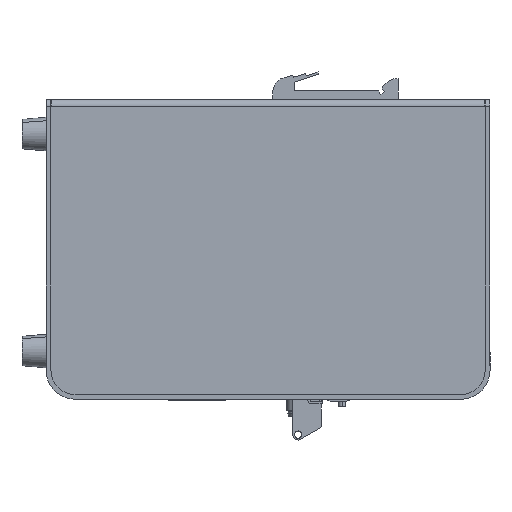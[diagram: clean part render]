
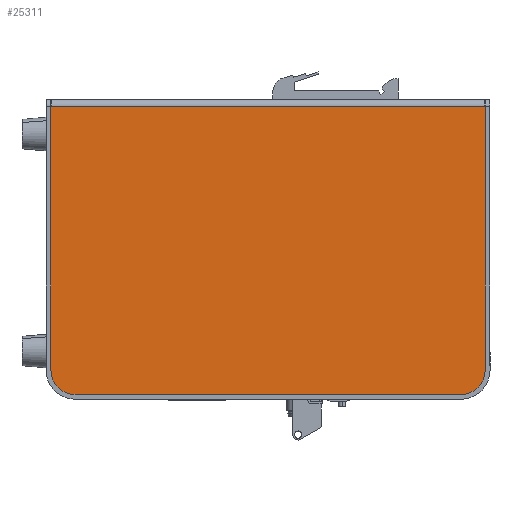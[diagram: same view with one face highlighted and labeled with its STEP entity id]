
A CAD part, left-side view. The second image highlights one B-rep face of the part: STEP entity #25311.
In plain terms, the highlighted planar face has unit normal (-1, 0, 0).
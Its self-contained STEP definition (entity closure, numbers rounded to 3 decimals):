
#4390 = CARTESIAN_POINT ( 'NONE',  ( -55.5, 103.6, 51.8 ) ) ;
#4908 = CARTESIAN_POINT ( 'NONE',  ( -55.5, 93.6, -67.7 ) ) ;
#4910 = DIRECTION ( 'NONE',  ( 0., 1., 0. ) ) ;
#4911 = VECTOR ( 'NONE', #4910, 1000. ) ;
#4912 = CARTESIAN_POINT ( 'NONE',  ( -55.5, 93.6, -67.7 ) ) ;
#4913 = LINE ( 'NONE', #4912, #4911 ) ;
#4940 = CARTESIAN_POINT ( 'NONE',  ( -55.5, 103.6, -57.7 ) ) ;
#5068 = DIRECTION ( 'NONE',  ( 0., 0., 1. ) ) ;
#5069 = VECTOR ( 'NONE', #5068, 1000. ) ;
#5070 = CARTESIAN_POINT ( 'NONE',  ( -55.5, 103.6, -57.7 ) ) ;
#5071 = LINE ( 'NONE', #5070, #5069 ) ;
#5095 = CARTESIAN_POINT ( 'NONE',  ( -55.5, -66.6, -67.7 ) ) ;
#6043 = DIRECTION ( 'NONE',  ( 0., 0., 1. ) ) ;
#6044 = DIRECTION ( 'NONE',  ( 1., 0., 0. ) ) ;
#6046 = CARTESIAN_POINT ( 'NONE',  ( -55.5, -66.6, -57.7 ) ) ;
#6047 = AXIS2_PLACEMENT_3D ( 'NONE', #6046, #6044, #6043 ) ;
#6048 = CIRCLE ( 'NONE', #6047, 10. ) ;
#6249 = CARTESIAN_POINT ( 'NONE',  ( -55.5, -76.6, -57.7 ) ) ;
#6250 = DIRECTION ( 'NONE',  ( 0., 0., -1. ) ) ;
#6251 = VECTOR ( 'NONE', #6250, 1000. ) ;
#6252 = CARTESIAN_POINT ( 'NONE',  ( -55.5, -76.6, -57.7 ) ) ;
#6253 = LINE ( 'NONE', #6252, #6251 ) ;
#6301 = CARTESIAN_POINT ( 'NONE',  ( -55.5, -76.6, 51.8 ) ) ;
#6595 = DIRECTION ( 'NONE',  ( 0., 0., 1. ) ) ;
#6596 = DIRECTION ( 'NONE',  ( 1., 0., 0. ) ) ;
#6597 = CARTESIAN_POINT ( 'NONE',  ( -55.5, 93.6, -57.7 ) ) ;
#6598 = AXIS2_PLACEMENT_3D ( 'NONE', #6597, #6596, #6595 ) ;
#6603 = CIRCLE ( 'NONE', #6598, 10. ) ;
#23271 = VERTEX_POINT ( 'NONE', #4390 ) ;
#23497 = VERTEX_POINT ( 'NONE', #4940 ) ;
#23517 = EDGE_CURVE ( 'NONE', #23539, #23523, #4913, .T. ) ;
#23523 = VERTEX_POINT ( 'NONE', #4908 ) ;
#23539 = VERTEX_POINT ( 'NONE', #5095 ) ;
#23593 = EDGE_CURVE ( 'NONE', #23497, #23271, #5071, .T. ) ;
#24268 = EDGE_CURVE ( 'NONE', #24377, #23539, #6048, .T. ) ;
#24374 = VERTEX_POINT ( 'NONE', #6301 ) ;
#24376 = EDGE_CURVE ( 'NONE', #24374, #24377, #6253, .T. ) ;
#24377 = VERTEX_POINT ( 'NONE', #6249 ) ;
#24440 = EDGE_CURVE ( 'NONE', #23523, #23497, #6603, .T. ) ;
#25105 = VERTEX_POINT ( 'NONE', #25207 ) ;
#25207 = CARTESIAN_POINT ( 'NONE',  ( -55.5, 103.5, 51.8 ) ) ;
#25237 = VERTEX_POINT ( 'NONE', #25568 ) ;
#25309 = EDGE_CURVE ( 'NONE', #25105, #25237, #25794, .T. ) ;
#25311 = ADVANCED_FACE ( 'NONE', ( #25787 ), #25886, .T. ) ;
#25568 = CARTESIAN_POINT ( 'NONE',  ( -55.5, -76.5, 51.8 ) ) ;
#25787 = FACE_OUTER_BOUND ( 'NONE', #25971, .T. ) ;
#25788 = DIRECTION ( 'NONE',  ( 0., -1., 0. ) ) ;
#25790 = VECTOR ( 'NONE', #25788, 1000. ) ;
#25792 = CARTESIAN_POINT ( 'NONE',  ( -55.5, -76.5, 51.8 ) ) ;
#25794 = LINE ( 'NONE', #25792, #25790 ) ;
#25878 = DIRECTION ( 'NONE',  ( 0., 0., -1. ) ) ;
#25880 = DIRECTION ( 'NONE',  ( -1., 0., 0. ) ) ;
#25883 = CARTESIAN_POINT ( 'NONE',  ( -55.5, -76.5, -67.2 ) ) ;
#25884 = AXIS2_PLACEMENT_3D ( 'NONE', #25883, #25880, #25878 ) ;
#25886 = PLANE ( 'NONE',  #25884 ) ;
#25909 = ORIENTED_EDGE ( 'NONE', *, *, #23517, .F. ) ;
#25911 = ORIENTED_EDGE ( 'NONE', *, *, #24268, .F. ) ;
#25912 = ORIENTED_EDGE ( 'NONE', *, *, #24376, .F. ) ;
#25971 = EDGE_LOOP ( 'NONE', ( #25972, #25974, #25975, #25980, #25983, #25909, #25911, #25912 ) ) ;
#25972 = ORIENTED_EDGE ( 'NONE', *, *, #25973, .F. ) ;
#25973 = EDGE_CURVE ( 'NONE', #25237, #24374, #27937, .T. ) ;
#25974 = ORIENTED_EDGE ( 'NONE', *, *, #25309, .F. ) ;
#25975 = ORIENTED_EDGE ( 'NONE', *, *, #25977, .F. ) ;
#25977 = EDGE_CURVE ( 'NONE', #23271, #25105, #27932, .T. ) ;
#25980 = ORIENTED_EDGE ( 'NONE', *, *, #23593, .F. ) ;
#25983 = ORIENTED_EDGE ( 'NONE', *, *, #24440, .F. ) ;
#27797 = DIRECTION ( 'NONE',  ( 0., -1., 0. ) ) ;
#27930 = VECTOR ( 'NONE', #27797, 1000. ) ;
#27931 = CARTESIAN_POINT ( 'NONE',  ( -55.5, -76.6, 51.8 ) ) ;
#27932 = LINE ( 'NONE', #27931, #27930 ) ;
#27934 = DIRECTION ( 'NONE',  ( 0., -1., 0. ) ) ;
#27935 = VECTOR ( 'NONE', #27934, 1000. ) ;
#27936 = CARTESIAN_POINT ( 'NONE',  ( -55.5, -76.6, 51.8 ) ) ;
#27937 = LINE ( 'NONE', #27936, #27935 ) ;
